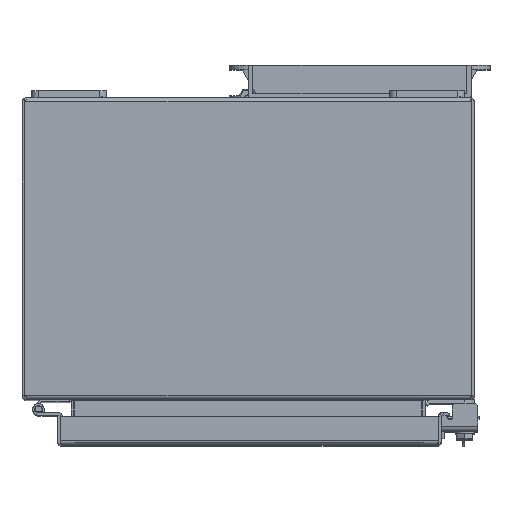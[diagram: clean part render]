
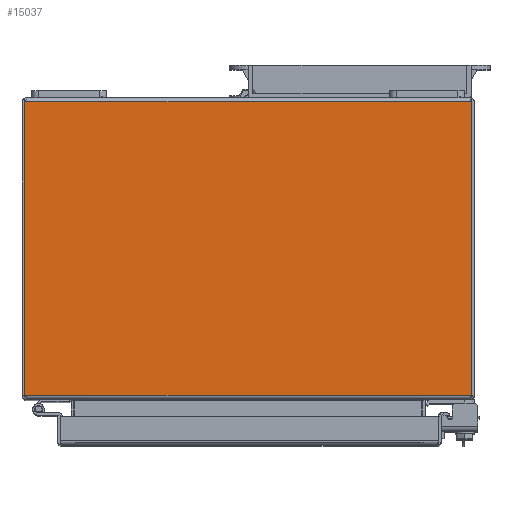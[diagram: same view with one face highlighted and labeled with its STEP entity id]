
A CAD part, top view. The second image highlights one B-rep face of the part: STEP entity #15037.
In plain terms, the highlighted planar face has unit normal (0, 0, 1).
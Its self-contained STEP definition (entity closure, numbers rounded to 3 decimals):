
#1374=LINE('',#22705,#2827);
#1378=LINE('',#22720,#2831);
#1385=LINE('',#22733,#2838);
#1387=LINE('',#22737,#2840);
#2827=VECTOR('',#18587,1000.);
#2831=VECTOR('',#18605,1000.);
#2838=VECTOR('',#18616,1000.);
#2840=VECTOR('',#18622,1000.);
#5820=ORIENTED_EDGE('',*,*,#9232,.T.);
#5821=ORIENTED_EDGE('',*,*,#9223,.T.);
#5822=ORIENTED_EDGE('',*,*,#9215,.T.);
#5823=ORIENTED_EDGE('',*,*,#9230,.T.);
#9215=EDGE_CURVE('',#11047,#11046,#1374,.T.);
#9223=EDGE_CURVE('',#11051,#11047,#1378,.T.);
#9230=EDGE_CURVE('',#11046,#11054,#1385,.T.);
#9232=EDGE_CURVE('',#11054,#11051,#1387,.T.);
#11046=VERTEX_POINT('',#22704);
#11047=VERTEX_POINT('',#22706);
#11051=VERTEX_POINT('',#22721);
#11054=VERTEX_POINT('',#22732);
#12619=EDGE_LOOP('',(#5820,#5821,#5822,#5823));
#13564=FACE_BOUND('',#12619,.T.);
#14364=PLANE('',#16220);
#15037=ADVANCED_FACE('',(#13564),#14364,.T.);
#16220=AXIS2_PLACEMENT_3D('',#22736,#18620,#18621);
#18587=DIRECTION('',(-1.,0.,0.));
#18605=DIRECTION('',(0.,1.,0.));
#18616=DIRECTION('',(0.,-1.,0.));
#18620=DIRECTION('',(0.,0.,1.));
#18621=DIRECTION('',(0.,-1.,0.));
#18622=DIRECTION('',(1.,0.,0.));
#22704=CARTESIAN_POINT('',(-150.569,-2.743,254.));
#22705=CARTESIAN_POINT('',(149.657,-2.743,254.));
#22706=CARTESIAN_POINT('',(150.569,-2.743,254.));
#22720=CARTESIAN_POINT('',(150.569,-2.025,254.));
#22721=CARTESIAN_POINT('',(150.569,-200.457,254.));
#22732=CARTESIAN_POINT('',(-150.569,-200.457,254.));
#22733=CARTESIAN_POINT('',(-150.569,-2.025,254.));
#22736=CARTESIAN_POINT('',(149.657,-2.025,254.));
#22737=CARTESIAN_POINT('',(150.569,-200.457,254.));
